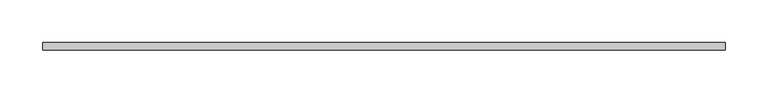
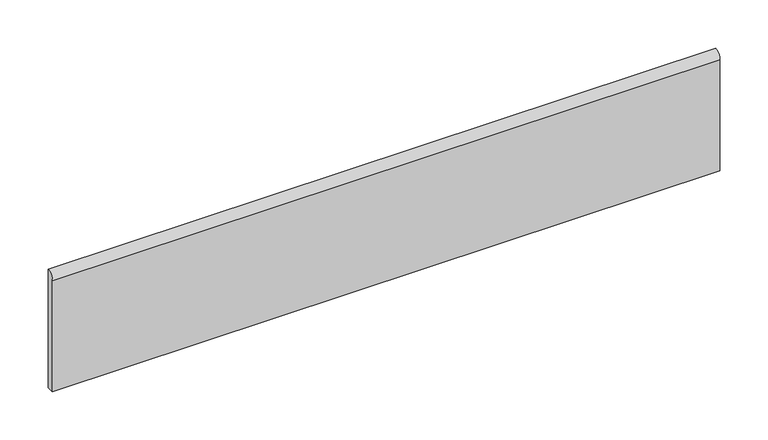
"""IFC4 building model written with IfcOpenShell, lengths in millimetres: proxy geometry, PORTOBELLO - RODAPE V STONE GREY 15X80 NAT RET (BASE NA LINHA) : GREY 15X80 NAT RET."""

import ifcopenshell
import ifcopenshell.guid

model = None  # the IFC model being written
_history = None  # IfcOwnerHistory: only IFC2X3 demands one
_inside = {}  # id of a spatial element -> (the spatial element, [elements in it])
_under = {}  # id of a project, library or spatial element -> (it, [spatial elements below it])
_declared = {}  # id of a project -> (the project, [libraries it declares])
_typed = {}  # id of a type object -> (the type object, [elements of that type])
_made_of = {}  # id of a material, layer set ... -> (it, [elements and type objects made of it])


def new_model(schema):
    """Start an empty IFC model of exactly this schema.

    Asked for "IFC4X3", IfcOpenShell would pick the latest addendum, in which some entities
    have other attributes; the version numbers below select the first issue.
    IFC2X3 requires an IfcOwnerHistory on every rooted entity: one is made here for all.
    """
    global model, _history
    if schema == "IFC4X3":
        model = ifcopenshell.file(schema_version=(4, 3, 0, 0))
    else:
        model = ifcopenshell.file(schema=schema)
    _inside.clear()
    _under.clear()
    _declared.clear()
    _typed.clear()
    _made_of.clear()
    _history = None
    if model.schema == "IFC2X3":
        org = make("IfcOrganization", Name="unknown")
        user = make(
            "IfcPersonAndOrganization",
            ThePerson=make("IfcPerson", FamilyName="unknown"),
            TheOrganization=org,
        )
        app = make(
            "IfcApplication",
            ApplicationDeveloper=org,
            Version="unknown",
            ApplicationFullName="unknown",
            ApplicationIdentifier="unknown",
        )
        _history = make(
            "IfcOwnerHistory",
            OwningUser=user,
            OwningApplication=app,
            ChangeAction="ADDED",
            CreationDate=0,
        )
    return model


def make(cls, **values):
    """One entity of the class cls with the attributes given. An attribute that is None is left unset."""
    return model.create_entity(
        cls, **{name: value for name, value in values.items() if value is not None}
    )


def rooted(cls, **values):
    """An entity with a GlobalId (a new one), such as an element, a storey or a relation."""
    return make(cls, GlobalId=ifcopenshell.guid.new(), OwnerHistory=_history, **values)


def si_unit(unit_type, name, prefix=None):
    """IfcSIUnit, for example si_unit("LENGTHUNIT", "METRE", prefix="MILLI")."""
    return make("IfcSIUnit", UnitType=unit_type, Prefix=prefix, Name=name)


def assignment(units):
    """IfcUnitAssignment: the units of a project."""
    return None if units is None else make("IfcUnitAssignment", Units=units)


def point(xyz):
    """IfcCartesianPoint."""
    return None if xyz is None else make("IfcCartesianPoint", Coordinates=xyz)


def direction(xyz):
    """IfcDirection."""
    return None if xyz is None else make("IfcDirection", DirectionRatios=xyz)


def frame(location, z_axis=None, x_axis=None):
    """IfcAxis2Placement3D, a coordinate frame: its origin and axes. An axis left out is left unset."""
    return make(
        "IfcAxis2Placement3D",
        Location=point(location),
        Axis=direction(z_axis),
        RefDirection=direction(x_axis),
    )


def frame_2d(location, x_axis=None):
    """IfcAxis2Placement2D, a coordinate frame in the plane: its origin and x axis."""
    return make(
        "IfcAxis2Placement2D", Location=point(location), RefDirection=direction(x_axis)
    )


def origin():
    """The frame at (0, 0, 0) with its axes left unset."""
    return frame((0.0, 0.0, 0.0))


def place(relative_to, where):
    """IfcLocalPlacement: puts the frame where relative to a parent placement (None: the world)."""
    return make(
        "IfcLocalPlacement", PlacementRelTo=relative_to, RelativePlacement=where
    )


def context(
    kind, dimensions, precision=None, world=None, true_north=None, identifier=None
):
    """IfcGeometricRepresentationContext, for example the 3D "Model" context."""
    return make(
        "IfcGeometricRepresentationContext",
        ContextIdentifier=identifier,
        ContextType=kind,
        CoordinateSpaceDimension=dimensions,
        Precision=precision,
        WorldCoordinateSystem=world,
        TrueNorth=true_north,
    )


def project(units=None, contexts=None):
    """IfcProject with its units and contexts."""
    return rooted(
        "IfcProject",
        Name="project",
        RepresentationContexts=contexts,
        UnitsInContext=assignment(units),
    )


def spatial(cls, under=None, at=None, **own):
    """A site, building, storey or space (cls), placed at a placement, below another one or the project."""
    s = rooted(cls, ObjectPlacement=at, **own)
    if under is not None:
        _under.setdefault(under.id(), (under, []))[1].append(s)
    return s


def polyline(points):
    """IfcPolyline through the points."""
    return make("IfcPolyline", Points=[point(p) for p in points])


def circle_curve(where, radius):
    """IfcCircle in the frame where."""
    return make("IfcCircle", Position=where, Radius=radius)


def trimmed(basis, trim1, trim2, sense, master):
    """IfcTrimmedCurve: the piece of a basis curve between two trims."""
    return make(
        "IfcTrimmedCurve",
        BasisCurve=basis,
        Trim1=trim1,
        Trim2=trim2,
        SenseAgreement=sense,
        MasterRepresentation=master,
    )


def segment(curve, same_sense, transition):
    """IfcCompositeCurveSegment."""
    return make(
        "IfcCompositeCurveSegment",
        Transition=transition,
        SameSense=same_sense,
        ParentCurve=curve,
    )


def composite_curve(segments, self_intersect=None):
    """IfcCompositeCurve: segments joined end to end."""
    return make("IfcCompositeCurve", Segments=segments, SelfIntersect=self_intersect)


def outline(outer, holes=None, kind="AREA"):
    """IfcArbitraryClosedProfileDef: a profile drawn as a closed curve; with holes, ...WithVoids."""
    if holes is None:
        return make("IfcArbitraryClosedProfileDef", ProfileType=kind, OuterCurve=outer)
    return make(
        "IfcArbitraryProfileDefWithVoids",
        ProfileType=kind,
        OuterCurve=outer,
        InnerCurves=holes,
    )


def extrude(swept, where, along, depth):
    """IfcExtrudedAreaSolid: the profile swept, set in the frame where, extruded along a direction by depth."""
    return make(
        "IfcExtrudedAreaSolid",
        SweptArea=swept,
        Position=where,
        ExtrudedDirection=direction(along),
        Depth=depth,
    )


def shape(context_of_items, identifier, shape_type, items):
    """IfcShapeRepresentation: the items that make up one representation, for example the "Body"."""
    return make(
        "IfcShapeRepresentation",
        ContextOfItems=context_of_items,
        RepresentationIdentifier=identifier,
        RepresentationType=shape_type,
        Items=items,
    )


def source(mapping_origin, context_of_items, identifier, shape_type, items):
    """IfcRepresentationMap: a shape defined once, which mapped items show again and again."""
    return make(
        "IfcRepresentationMap",
        MappingOrigin=mapping_origin,
        MappedRepresentation=shape(context_of_items, identifier, shape_type, items),
    )


def transform(
    local_origin,
    x_axis=None,
    y_axis=None,
    z_axis=None,
    scale=None,
    scale2=None,
    scale3=None,
    uniform=True,
):
    """IfcCartesianTransformationOperator3D, or its non-uniform kind. x_axis, y_axis, z_axis: its Axis1, 2, 3."""
    if uniform:
        return make(
            "IfcCartesianTransformationOperator3D",
            Axis1=direction(x_axis),
            Axis2=direction(y_axis),
            LocalOrigin=point(local_origin),
            Scale=scale,
            Axis3=direction(z_axis),
        )
    return make(
        "IfcCartesianTransformationOperator3DnonUniform",
        Axis1=direction(x_axis),
        Axis2=direction(y_axis),
        LocalOrigin=point(local_origin),
        Scale=scale,
        Axis3=direction(z_axis),
        Scale2=scale2,
        Scale3=scale3,
    )


def mapped(mapping_source, mapping_target):
    """IfcMappedItem: shows the shape of a source again, moved by a transform."""
    return make(
        "IfcMappedItem", MappingSource=mapping_source, MappingTarget=mapping_target
    )


def made_of(thing, what):
    """Note that an element or type object is made of a material, layer set ...; save() writes the relation."""
    if what is not None:
        _made_of.setdefault(what.id(), (what, []))[1].append(thing)
    return thing


def element(
    cls,
    number,
    at=None,
    inside=None,
    cuts=None,
    type_object=None,
    material=None,
    context=None,
    identifier="Body",
    shape_type=None,
    held_by="IfcProductDefinitionShape",
    body=None,
    shapes=None,
    **own,
):
    """One element of the class cls, such as IfcWall. Its Tag is "e" and its number.

    at: its placement. inside: the storey or other place that contains it. cuts: it is an
    opening in that element (IfcRelVoidsElement). A single representation is given by context,
    identifier, shape_type and body (its items); several are given by shapes. held_by: the class
    of the entity that holds the representations. save() writes the other relations.
    """
    e = rooted(cls, Tag="e%d" % number, ObjectPlacement=at, **own)
    if body is not None:
        shapes = [shape(context, identifier, shape_type, body)]
    if shapes is not None:
        e.Representation = make(held_by, Representations=shapes)
    if inside is not None:
        _inside.setdefault(inside.id(), (inside, []))[1].append(e)
    if cuts is not None:
        rooted(
            "IfcRelVoidsElement", RelatingBuildingElement=cuts, RelatedOpeningElement=e
        )
    if type_object is not None:
        _typed.setdefault(type_object.id(), (type_object, []))[1].append(e)
    return made_of(e, material)


def aggregate(whole, parts):
    """IfcRelAggregates: a whole, such as a stair, and the parts it consists of."""
    return rooted("IfcRelAggregates", RelatingObject=whole, RelatedObjects=parts)


def save(model, path):
    """Write the relations noted so far, then the file.

    IfcRelAggregates (storeys below a building ...), IfcRelContainedInSpatialStructure (elements
    in a storey), IfcRelDefinesByType, IfcRelAssociatesMaterial and IfcRelDeclares: one each for
    every whole, place, type object, material and project.
    """
    for whole, parts in _under.values():
        aggregate(whole, parts)
    for where, things in _inside.values():
        rooted(
            "IfcRelContainedInSpatialStructure",
            RelatedElements=things,
            RelatingStructure=where,
        )
    for kind, things in _typed.values():
        rooted("IfcRelDefinesByType", RelatedObjects=things, RelatingType=kind)
    for what, things in _made_of.values():
        rooted("IfcRelAssociatesMaterial", RelatedObjects=things, RelatingMaterial=what)
    for by, libraries in _declared.values():
        rooted("IfcRelDeclares", RelatingContext=by, RelatedDefinitions=libraries)
    model.write(path)


def generic_models_04e9f25f(model_context):
    return source(origin(), model_context, "Body", "SweptSolid", [
        extrude(outline(composite_curve([segment(polyline([(0.0, 150.0), (0.0, 0.0), (-9.0, 0.0), (-9.0, 141.0)]), True, "CONTINUOUS"), segment(trimmed(circle_curve(frame_2d((0.0, 141.0)), 9.0), [point((-9.0, 141.0))], [point((0.0, 150.0))], False, "CARTESIAN"), True, "CONTINUOUS")], self_intersect=False)), frame((0.0, 0.0, 0.0), z_axis=(1.0, 0.0, 0.0), x_axis=(0.0, 1.0, 0.0)), (0.0, 0.0, 1.0), 800.0),
    ])


if __name__ == "__main__":
    model = new_model("IFC4")
    model_context = context("Model", 3, world=origin())
    ifc_project = project(units=[si_unit("LENGTHUNIT", "METRE", prefix="MILLI")], contexts=[model_context])
    site = spatial("IfcSite", under=ifc_project)
    building = spatial("IfcBuilding", under=site)
    placement = place(None, origin())
    generic_models_shape = generic_models_04e9f25f(model_context)
    element("IfcBuildingElementProxy", 1, Name="PORTOBELLO - RODAPE V STONE GREY 15X80 NAT RET (BASE NA LINHA) : GREY 15X80 NAT RET", ObjectType="PORTOBELLO - RODAPE V STONE GREY 15X80 NAT RET (BASE NA LINHA) : GREY 15X80 NAT RET", at=placement, inside=building, context=model_context, shape_type="MappedRepresentation", body=[
        mapped(generic_models_shape, transform((0.0, 0.0, 0.0), x_axis=(1.0, 0.0, 0.0), y_axis=(0.0, 1.0, 0.0), z_axis=(0.0, 0.0, 1.0))),
    ])
    save(model, "model.ifc")
